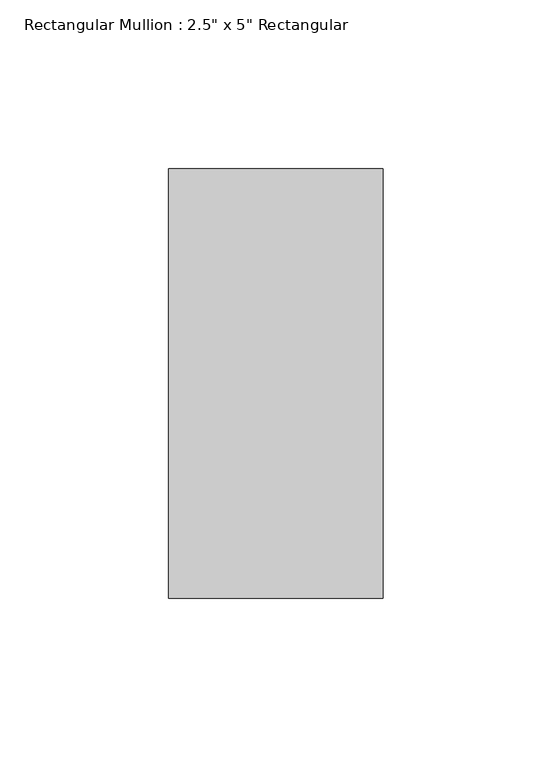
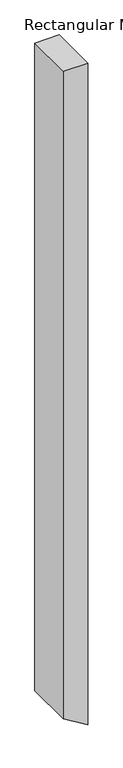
"""IFC4 building model written with IfcOpenShell, lengths in millimetres: member geometry."""

import ifcopenshell
import ifcopenshell.guid

model = None  # the IFC model being written
_history = None  # IfcOwnerHistory: only IFC2X3 demands one
_inside = {}  # id of a spatial element -> (the spatial element, [elements in it])
_under = {}  # id of a project, library or spatial element -> (it, [spatial elements below it])
_declared = {}  # id of a project -> (the project, [libraries it declares])
_typed = {}  # id of a type object -> (the type object, [elements of that type])
_made_of = {}  # id of a material, layer set ... -> (it, [elements and type objects made of it])


def new_model(schema):
    """Start an empty IFC model of exactly this schema.

    Asked for "IFC4X3", IfcOpenShell would pick the latest addendum, in which some entities
    have other attributes; the version numbers below select the first issue.
    IFC2X3 requires an IfcOwnerHistory on every rooted entity: one is made here for all.
    """
    global model, _history
    if schema == "IFC4X3":
        model = ifcopenshell.file(schema_version=(4, 3, 0, 0))
    else:
        model = ifcopenshell.file(schema=schema)
    _inside.clear()
    _under.clear()
    _declared.clear()
    _typed.clear()
    _made_of.clear()
    _history = None
    if model.schema == "IFC2X3":
        org = make("IfcOrganization", Name="unknown")
        user = make(
            "IfcPersonAndOrganization",
            ThePerson=make("IfcPerson", FamilyName="unknown"),
            TheOrganization=org,
        )
        app = make(
            "IfcApplication",
            ApplicationDeveloper=org,
            Version="unknown",
            ApplicationFullName="unknown",
            ApplicationIdentifier="unknown",
        )
        _history = make(
            "IfcOwnerHistory",
            OwningUser=user,
            OwningApplication=app,
            ChangeAction="ADDED",
            CreationDate=0,
        )
    return model


def make(cls, **values):
    """One entity of the class cls with the attributes given. An attribute that is None is left unset."""
    return model.create_entity(
        cls, **{name: value for name, value in values.items() if value is not None}
    )


def rooted(cls, **values):
    """An entity with a GlobalId (a new one), such as an element, a storey or a relation."""
    return make(cls, GlobalId=ifcopenshell.guid.new(), OwnerHistory=_history, **values)


def si_unit(unit_type, name, prefix=None):
    """IfcSIUnit, for example si_unit("LENGTHUNIT", "METRE", prefix="MILLI")."""
    return make("IfcSIUnit", UnitType=unit_type, Prefix=prefix, Name=name)


def assignment(units):
    """IfcUnitAssignment: the units of a project."""
    return None if units is None else make("IfcUnitAssignment", Units=units)


def point(xyz):
    """IfcCartesianPoint."""
    return None if xyz is None else make("IfcCartesianPoint", Coordinates=xyz)


def direction(xyz):
    """IfcDirection."""
    return None if xyz is None else make("IfcDirection", DirectionRatios=xyz)


def frame(location, z_axis=None, x_axis=None):
    """IfcAxis2Placement3D, a coordinate frame: its origin and axes. An axis left out is left unset."""
    return make(
        "IfcAxis2Placement3D",
        Location=point(location),
        Axis=direction(z_axis),
        RefDirection=direction(x_axis),
    )


def origin():
    """The frame at (0, 0, 0) with its axes left unset."""
    return frame((0.0, 0.0, 0.0))


def place(relative_to, where):
    """IfcLocalPlacement: puts the frame where relative to a parent placement (None: the world)."""
    return make(
        "IfcLocalPlacement", PlacementRelTo=relative_to, RelativePlacement=where
    )


def context(
    kind, dimensions, precision=None, world=None, true_north=None, identifier=None
):
    """IfcGeometricRepresentationContext, for example the 3D "Model" context."""
    return make(
        "IfcGeometricRepresentationContext",
        ContextIdentifier=identifier,
        ContextType=kind,
        CoordinateSpaceDimension=dimensions,
        Precision=precision,
        WorldCoordinateSystem=world,
        TrueNorth=true_north,
    )


def project(units=None, contexts=None):
    """IfcProject with its units and contexts."""
    return rooted(
        "IfcProject",
        Name="project",
        RepresentationContexts=contexts,
        UnitsInContext=assignment(units),
    )


def spatial(cls, under=None, at=None, **own):
    """A site, building, storey or space (cls), placed at a placement, below another one or the project."""
    s = rooted(cls, ObjectPlacement=at, **own)
    if under is not None:
        _under.setdefault(under.id(), (under, []))[1].append(s)
    return s


def polyline(points):
    """IfcPolyline through the points."""
    return make("IfcPolyline", Points=[point(p) for p in points])


def outline(outer, holes=None, kind="AREA"):
    """IfcArbitraryClosedProfileDef: a profile drawn as a closed curve; with holes, ...WithVoids."""
    if holes is None:
        return make("IfcArbitraryClosedProfileDef", ProfileType=kind, OuterCurve=outer)
    return make(
        "IfcArbitraryProfileDefWithVoids",
        ProfileType=kind,
        OuterCurve=outer,
        InnerCurves=holes,
    )


def extrude(swept, where, along, depth):
    """IfcExtrudedAreaSolid: the profile swept, set in the frame where, extruded along a direction by depth."""
    return make(
        "IfcExtrudedAreaSolid",
        SweptArea=swept,
        Position=where,
        ExtrudedDirection=direction(along),
        Depth=depth,
    )


def shape(context_of_items, identifier, shape_type, items):
    """IfcShapeRepresentation: the items that make up one representation, for example the "Body"."""
    return make(
        "IfcShapeRepresentation",
        ContextOfItems=context_of_items,
        RepresentationIdentifier=identifier,
        RepresentationType=shape_type,
        Items=items,
    )


def source(mapping_origin, context_of_items, identifier, shape_type, items):
    """IfcRepresentationMap: a shape defined once, which mapped items show again and again."""
    return make(
        "IfcRepresentationMap",
        MappingOrigin=mapping_origin,
        MappedRepresentation=shape(context_of_items, identifier, shape_type, items),
    )


def transform(
    local_origin,
    x_axis=None,
    y_axis=None,
    z_axis=None,
    scale=None,
    scale2=None,
    scale3=None,
    uniform=True,
):
    """IfcCartesianTransformationOperator3D, or its non-uniform kind. x_axis, y_axis, z_axis: its Axis1, 2, 3."""
    if uniform:
        return make(
            "IfcCartesianTransformationOperator3D",
            Axis1=direction(x_axis),
            Axis2=direction(y_axis),
            LocalOrigin=point(local_origin),
            Scale=scale,
            Axis3=direction(z_axis),
        )
    return make(
        "IfcCartesianTransformationOperator3DnonUniform",
        Axis1=direction(x_axis),
        Axis2=direction(y_axis),
        LocalOrigin=point(local_origin),
        Scale=scale,
        Axis3=direction(z_axis),
        Scale2=scale2,
        Scale3=scale3,
    )


def mapped(mapping_source, mapping_target):
    """IfcMappedItem: shows the shape of a source again, moved by a transform."""
    return make(
        "IfcMappedItem", MappingSource=mapping_source, MappingTarget=mapping_target
    )


def made_of(thing, what):
    """Note that an element or type object is made of a material, layer set ...; save() writes the relation."""
    if what is not None:
        _made_of.setdefault(what.id(), (what, []))[1].append(thing)
    return thing


def element(
    cls,
    number,
    at=None,
    inside=None,
    cuts=None,
    type_object=None,
    material=None,
    context=None,
    identifier="Body",
    shape_type=None,
    held_by="IfcProductDefinitionShape",
    body=None,
    shapes=None,
    **own,
):
    """One element of the class cls, such as IfcWall. Its Tag is "e" and its number.

    at: its placement. inside: the storey or other place that contains it. cuts: it is an
    opening in that element (IfcRelVoidsElement). A single representation is given by context,
    identifier, shape_type and body (its items); several are given by shapes. held_by: the class
    of the entity that holds the representations. save() writes the other relations.
    """
    e = rooted(cls, Tag="e%d" % number, ObjectPlacement=at, **own)
    if body is not None:
        shapes = [shape(context, identifier, shape_type, body)]
    if shapes is not None:
        e.Representation = make(held_by, Representations=shapes)
    if inside is not None:
        _inside.setdefault(inside.id(), (inside, []))[1].append(e)
    if cuts is not None:
        rooted(
            "IfcRelVoidsElement", RelatingBuildingElement=cuts, RelatedOpeningElement=e
        )
    if type_object is not None:
        _typed.setdefault(type_object.id(), (type_object, []))[1].append(e)
    return made_of(e, material)


def aggregate(whole, parts):
    """IfcRelAggregates: a whole, such as a stair, and the parts it consists of."""
    return rooted("IfcRelAggregates", RelatingObject=whole, RelatedObjects=parts)


def save(model, path):
    """Write the relations noted so far, then the file.

    IfcRelAggregates (storeys below a building ...), IfcRelContainedInSpatialStructure (elements
    in a storey), IfcRelDefinesByType, IfcRelAssociatesMaterial and IfcRelDeclares: one each for
    every whole, place, type object, material and project.
    """
    for whole, parts in _under.values():
        aggregate(whole, parts)
    for where, things in _inside.values():
        rooted(
            "IfcRelContainedInSpatialStructure",
            RelatedElements=things,
            RelatingStructure=where,
        )
    for kind, things in _typed.values():
        rooted("IfcRelDefinesByType", RelatedObjects=things, RelatingType=kind)
    for what, things in _made_of.values():
        rooted("IfcRelAssociatesMaterial", RelatedObjects=things, RelatingMaterial=what)
    for by, libraries in _declared.values():
        rooted("IfcRelDeclares", RelatingContext=by, RelatedDefinitions=libraries)
    model.write(path)


def member_4eaf5059(model_context):
    return source(origin(), model_context, "Body", "SweptSolid", [
        extrude(outline(polyline([(0.0, 0.0), (0.0, -63.5), (-1769.8442831, -63.5), (-1809.0894414, 0.0), (0.0, 0.0)])), frame((0.0, -63.5, 0.0), z_axis=(0.0, 1.0, 0.0), x_axis=(0.0, 0.0, 1.0)), (0.0, 0.0, 1.0), 127.0),
    ])


if __name__ == "__main__":
    model = new_model("IFC4")
    model_context = context("Model", 3, world=origin())
    ifc_project = project(units=[si_unit("LENGTHUNIT", "METRE", prefix="MILLI")], contexts=[model_context])
    site = spatial("IfcSite", under=ifc_project)
    building = spatial("IfcBuilding", under=site)
    placement = place(None, origin())
    member_shape = member_4eaf5059(model_context)
    element("IfcMember", 1, ObjectType="Rectangular Mullion : 2.5\" x 5\" Rectangular", at=placement, inside=building, context=model_context, shape_type="MappedRepresentation", body=[
        mapped(member_shape, transform((0.0, 0.0, 0.0), x_axis=(1.0, 0.0, 0.0), y_axis=(0.0, 1.0, 0.0), z_axis=(0.0, 0.0, 1.0))),
    ])
    save(model, "model.ifc")
